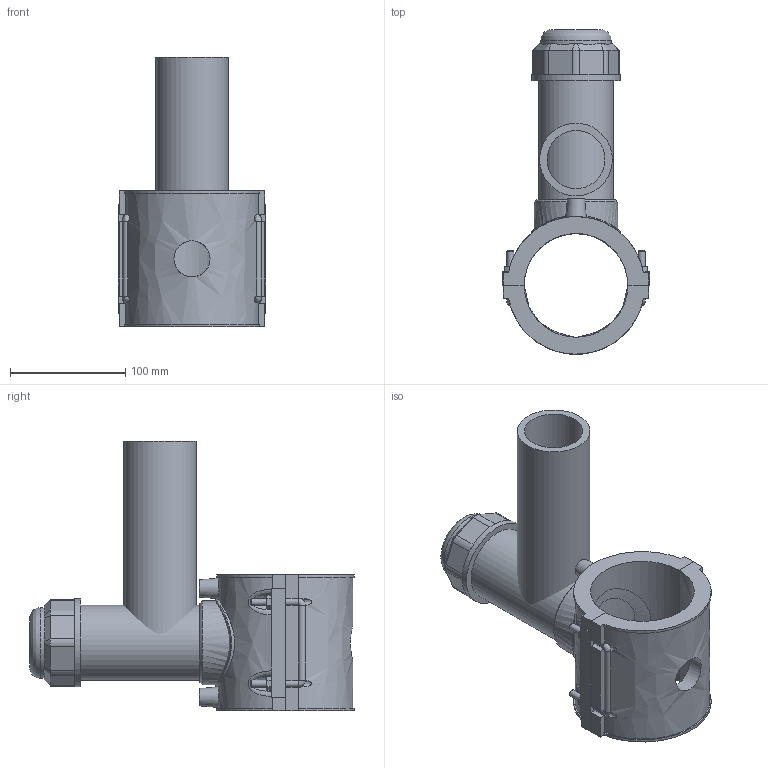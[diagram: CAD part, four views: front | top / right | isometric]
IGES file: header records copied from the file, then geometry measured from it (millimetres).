
Global section: file name: 4963P4090063; native system: Autodesk Inventor 2019; preprocessor: unknown; author: KIM; date: 20220317.112723; units: millimetre
Bounding box: 128 x 281.65 x 234 mm (x, y, z)
Volume: 1093422 mm3; surface area: 242092.8 mm2
Topology: 3 solids, 3 shells, 202 faces, 523 edges, 344 vertices
Faces by surface type: bspline 202
